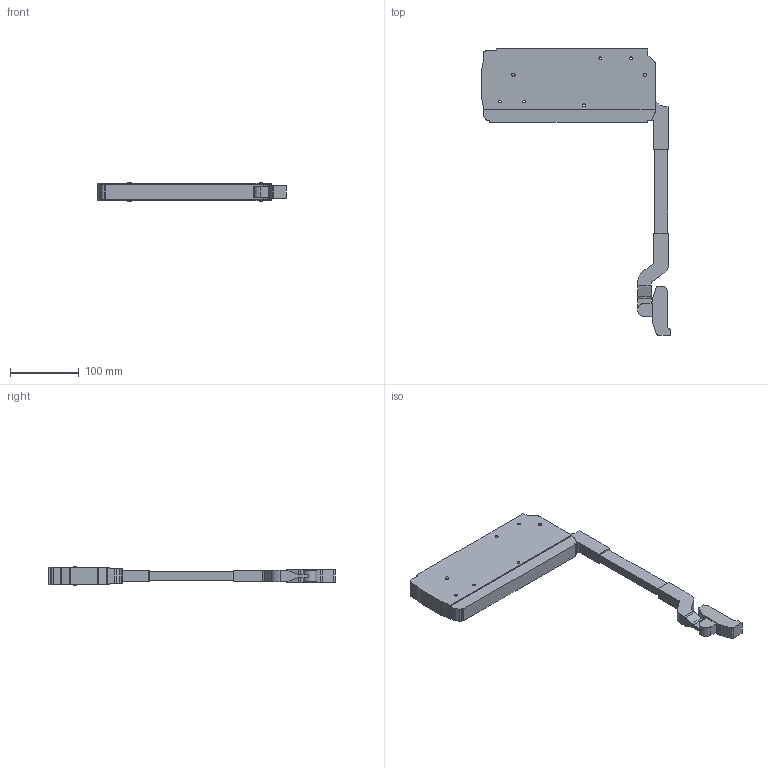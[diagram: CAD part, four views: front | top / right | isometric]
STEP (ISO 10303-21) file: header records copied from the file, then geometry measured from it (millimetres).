
FILE_DESCRIPTION (( 'STEP AP214' ), '1' );
FILE_NAME ('ST03AL(M).STEP', '2021-04-10T05:09:23', ( 'Windows 蚚誧' ), ( '' ), 'SwSTEP 2.0', 'SolidWorks 2018', '' );
FILE_SCHEMA (( 'AUTOMOTIVE_DESIGN' ));
Length unit declared in the file: millimetre
Products named in the file (1): ST03AL(M)
Bounding box: 275.19 x 417.78 x 28.6 mm (x, y, z)
Volume: 770231.2 mm3; surface area: 100323.4 mm2
Topology: 1 solids, 1 shells, 126 faces, 351 edges, 234 vertices
Faces by surface type: plane 68, cylinder 58
Entity records: 4578 total; most frequent: DIRECTION 723, CARTESIAN_POINT 712, ORIENTED_EDGE 702, EDGE_CURVE 351, AXIS2_PLACEMENT_3D 245, VERTEX_POINT 234, LINE 233, VECTOR 233
